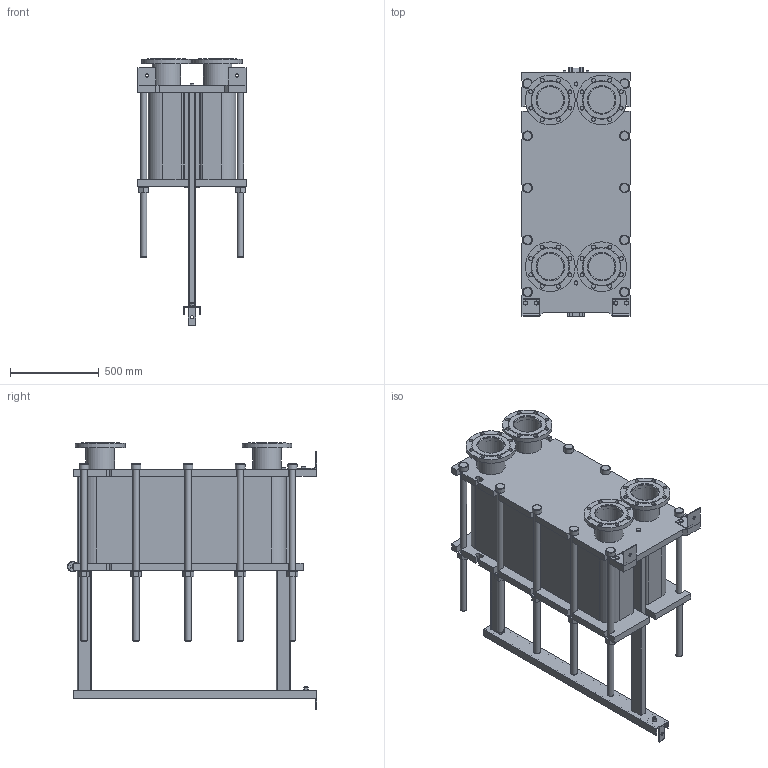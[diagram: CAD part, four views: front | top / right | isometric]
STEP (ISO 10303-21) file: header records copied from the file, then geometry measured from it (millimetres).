
FILE_DESCRIPTION(/* description */ (''),/* implementation_level */ '2;1');
FILE_NAME(/* name */ 'C:\Users\zhuro\Desktop\ENCO\TO\ЭН-041\ЭН-0,5-041-142-1.stp',/* time_stamp */ '2022-06-06T11:00:56+03:00',/* author */ ('zhuro'),/* organization */ (''),/* preprocessor_version */ 'ST-DEVELOPER v18.1',/* originating_system */ 'Autodesk Inventor 2022',/* authorisation */ '');
FILE_SCHEMA (('AUTOMOTIVE_DESIGN { 1 0 10303 214 3 1 1 }'));
Length unit declared in the file: millimetre
Products named in the file (1): ЭН-0,5-041-142-1
Bounding box: 610 x 1406.5 x 1505 mm (x, y, z)
Volume: 358962622.2 mm3; surface area: 9950576.7 mm2
Topology: 52 solids, 52 shells, 711 faces, 1696 edges, 1094 vertices
Faces by surface type: plane 487, cylinder 177, cone 41, torus 6
Full cylindrical faces by diameter (mm): 8 x4, 10 x2, 16 x8, 18 x3, 22 x32, 36 x24, 50 x1, 54 x10, 60 x12, 151 x4, 161 x8, 280 x4
Entity records: 22667 total; most frequent: CARTESIAN_POINT 5230, DIRECTION 3644, ORIENTED_EDGE 3392, EDGE_CURVE 1696, AXIS2_PLACEMENT_3D 1272, LINE 1100, VECTOR 1100, VERTEX_POINT 1094
